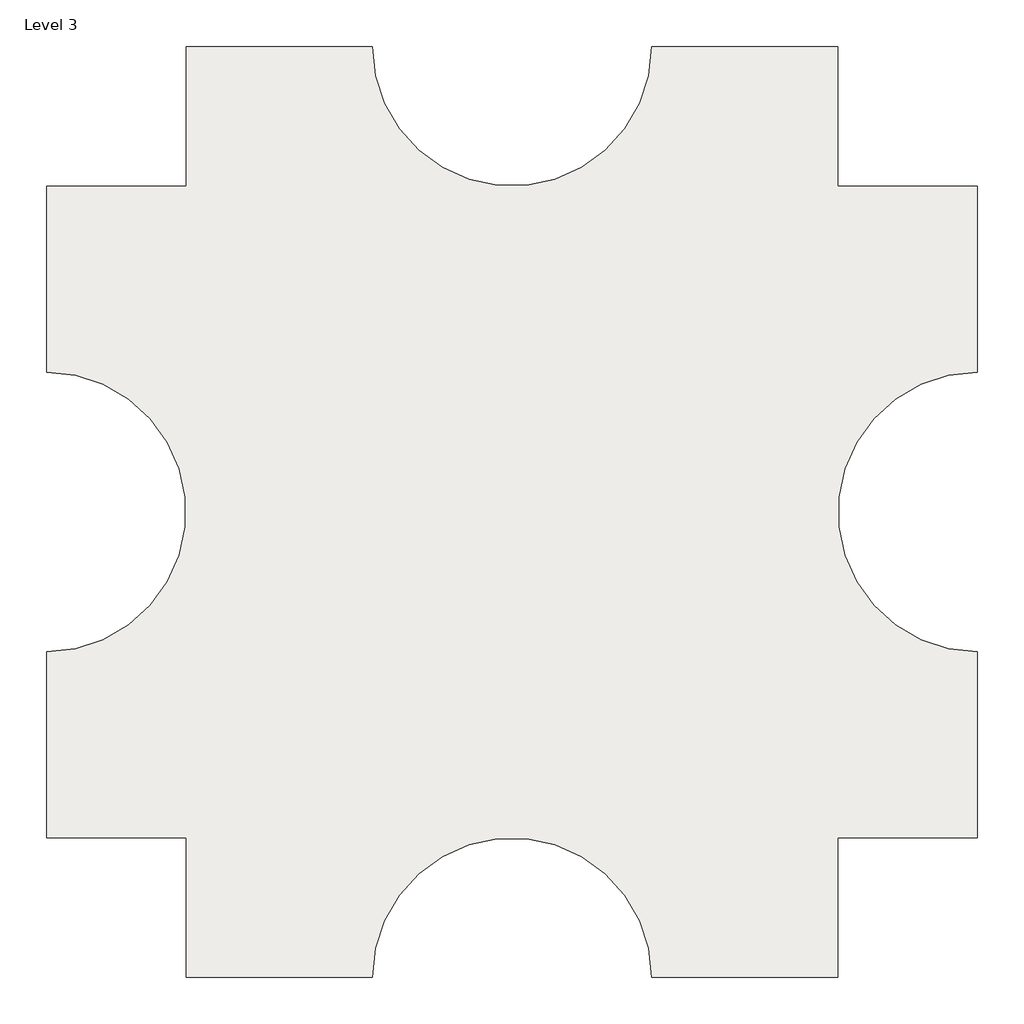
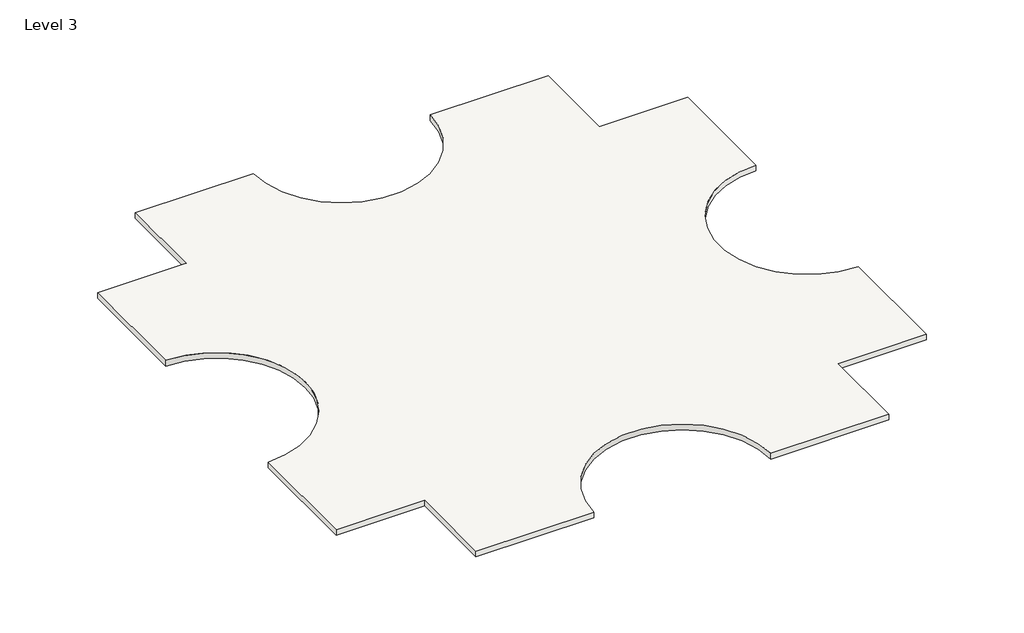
# One storey: 2 slabs.
"""IFC4 building model written with IfcOpenShell, lengths in millimetres."""

import ifcopenshell
import ifcopenshell.guid

model = None  # the IFC model being written
_history = None  # IfcOwnerHistory: only IFC2X3 demands one
_inside = {}  # id of a spatial element -> (the spatial element, [elements in it])
_under = {}  # id of a project, library or spatial element -> (it, [spatial elements below it])
_declared = {}  # id of a project -> (the project, [libraries it declares])
_typed = {}  # id of a type object -> (the type object, [elements of that type])
_made_of = {}  # id of a material, layer set ... -> (it, [elements and type objects made of it])


def new_model(schema):
    """Start an empty IFC model of exactly this schema.

    Asked for "IFC4X3", IfcOpenShell would pick the latest addendum, in which some entities
    have other attributes; the version numbers below select the first issue.
    IFC2X3 requires an IfcOwnerHistory on every rooted entity: one is made here for all.
    """
    global model, _history
    if schema == "IFC4X3":
        model = ifcopenshell.file(schema_version=(4, 3, 0, 0))
    else:
        model = ifcopenshell.file(schema=schema)
    _inside.clear()
    _under.clear()
    _declared.clear()
    _typed.clear()
    _made_of.clear()
    _history = None
    if model.schema == "IFC2X3":
        org = make("IfcOrganization", Name="unknown")
        user = make(
            "IfcPersonAndOrganization",
            ThePerson=make("IfcPerson", FamilyName="unknown"),
            TheOrganization=org,
        )
        app = make(
            "IfcApplication",
            ApplicationDeveloper=org,
            Version="unknown",
            ApplicationFullName="unknown",
            ApplicationIdentifier="unknown",
        )
        _history = make(
            "IfcOwnerHistory",
            OwningUser=user,
            OwningApplication=app,
            ChangeAction="ADDED",
            CreationDate=0,
        )
    return model


def make(cls, **values):
    """One entity of the class cls with the attributes given. An attribute that is None is left unset."""
    return model.create_entity(
        cls, **{name: value for name, value in values.items() if value is not None}
    )


def rooted(cls, **values):
    """An entity with a GlobalId (a new one), such as an element, a storey or a relation."""
    return make(cls, GlobalId=ifcopenshell.guid.new(), OwnerHistory=_history, **values)


def si_unit(unit_type, name, prefix=None):
    """IfcSIUnit, for example si_unit("LENGTHUNIT", "METRE", prefix="MILLI")."""
    return make("IfcSIUnit", UnitType=unit_type, Prefix=prefix, Name=name)


def assignment(units):
    """IfcUnitAssignment: the units of a project."""
    return None if units is None else make("IfcUnitAssignment", Units=units)


def point(xyz):
    """IfcCartesianPoint."""
    return None if xyz is None else make("IfcCartesianPoint", Coordinates=xyz)


def direction(xyz):
    """IfcDirection."""
    return None if xyz is None else make("IfcDirection", DirectionRatios=xyz)


def frame(location, z_axis=None, x_axis=None):
    """IfcAxis2Placement3D, a coordinate frame: its origin and axes. An axis left out is left unset."""
    return make(
        "IfcAxis2Placement3D",
        Location=point(location),
        Axis=direction(z_axis),
        RefDirection=direction(x_axis),
    )


def frame_2d(location, x_axis=None):
    """IfcAxis2Placement2D, a coordinate frame in the plane: its origin and x axis."""
    return make(
        "IfcAxis2Placement2D", Location=point(location), RefDirection=direction(x_axis)
    )


def origin():
    """The frame at (0, 0, 0) with its axes left unset."""
    return frame((0.0, 0.0, 0.0))


def place(relative_to, where):
    """IfcLocalPlacement: puts the frame where relative to a parent placement (None: the world)."""
    return make(
        "IfcLocalPlacement", PlacementRelTo=relative_to, RelativePlacement=where
    )


def context(
    kind, dimensions, precision=None, world=None, true_north=None, identifier=None
):
    """IfcGeometricRepresentationContext, for example the 3D "Model" context."""
    return make(
        "IfcGeometricRepresentationContext",
        ContextIdentifier=identifier,
        ContextType=kind,
        CoordinateSpaceDimension=dimensions,
        Precision=precision,
        WorldCoordinateSystem=world,
        TrueNorth=true_north,
    )


def project(units=None, contexts=None):
    """IfcProject with its units and contexts."""
    return rooted(
        "IfcProject",
        Name="project",
        RepresentationContexts=contexts,
        UnitsInContext=assignment(units),
    )


def spatial(cls, under=None, at=None, **own):
    """A site, building, storey or space (cls), placed at a placement, below another one or the project."""
    s = rooted(cls, ObjectPlacement=at, **own)
    if under is not None:
        _under.setdefault(under.id(), (under, []))[1].append(s)
    return s


def polyline(points):
    """IfcPolyline through the points."""
    return make("IfcPolyline", Points=[point(p) for p in points])


def circle_curve(where, radius):
    """IfcCircle in the frame where."""
    return make("IfcCircle", Position=where, Radius=radius)


def trimmed(basis, trim1, trim2, sense, master):
    """IfcTrimmedCurve: the piece of a basis curve between two trims."""
    return make(
        "IfcTrimmedCurve",
        BasisCurve=basis,
        Trim1=trim1,
        Trim2=trim2,
        SenseAgreement=sense,
        MasterRepresentation=master,
    )


def segment(curve, same_sense, transition):
    """IfcCompositeCurveSegment."""
    return make(
        "IfcCompositeCurveSegment",
        Transition=transition,
        SameSense=same_sense,
        ParentCurve=curve,
    )


def composite_curve(segments, self_intersect=None):
    """IfcCompositeCurve: segments joined end to end."""
    return make("IfcCompositeCurve", Segments=segments, SelfIntersect=self_intersect)


def outline(outer, holes=None, kind="AREA"):
    """IfcArbitraryClosedProfileDef: a profile drawn as a closed curve; with holes, ...WithVoids."""
    if holes is None:
        return make("IfcArbitraryClosedProfileDef", ProfileType=kind, OuterCurve=outer)
    return make(
        "IfcArbitraryProfileDefWithVoids",
        ProfileType=kind,
        OuterCurve=outer,
        InnerCurves=holes,
    )


def extrude(swept, where, along, depth):
    """IfcExtrudedAreaSolid: the profile swept, set in the frame where, extruded along a direction by depth."""
    return make(
        "IfcExtrudedAreaSolid",
        SweptArea=swept,
        Position=where,
        ExtrudedDirection=direction(along),
        Depth=depth,
    )


def shape(context_of_items, identifier, shape_type, items):
    """IfcShapeRepresentation: the items that make up one representation, for example the "Body"."""
    return make(
        "IfcShapeRepresentation",
        ContextOfItems=context_of_items,
        RepresentationIdentifier=identifier,
        RepresentationType=shape_type,
        Items=items,
    )


def made_of(thing, what):
    """Note that an element or type object is made of a material, layer set ...; save() writes the relation."""
    if what is not None:
        _made_of.setdefault(what.id(), (what, []))[1].append(thing)
    return thing


def element(
    cls,
    number,
    at=None,
    inside=None,
    cuts=None,
    type_object=None,
    material=None,
    context=None,
    identifier="Body",
    shape_type=None,
    held_by="IfcProductDefinitionShape",
    body=None,
    shapes=None,
    **own,
):
    """One element of the class cls, such as IfcWall. Its Tag is "e" and its number.

    at: its placement. inside: the storey or other place that contains it. cuts: it is an
    opening in that element (IfcRelVoidsElement). A single representation is given by context,
    identifier, shape_type and body (its items); several are given by shapes. held_by: the class
    of the entity that holds the representations. save() writes the other relations.
    """
    e = rooted(cls, Tag="e%d" % number, ObjectPlacement=at, **own)
    if body is not None:
        shapes = [shape(context, identifier, shape_type, body)]
    if shapes is not None:
        e.Representation = make(held_by, Representations=shapes)
    if inside is not None:
        _inside.setdefault(inside.id(), (inside, []))[1].append(e)
    if cuts is not None:
        rooted(
            "IfcRelVoidsElement", RelatingBuildingElement=cuts, RelatedOpeningElement=e
        )
    if type_object is not None:
        _typed.setdefault(type_object.id(), (type_object, []))[1].append(e)
    return made_of(e, material)


def aggregate(whole, parts):
    """IfcRelAggregates: a whole, such as a stair, and the parts it consists of."""
    return rooted("IfcRelAggregates", RelatingObject=whole, RelatedObjects=parts)


def save(model, path):
    """Write the relations noted so far, then the file.

    IfcRelAggregates (storeys below a building ...), IfcRelContainedInSpatialStructure (elements
    in a storey), IfcRelDefinesByType, IfcRelAssociatesMaterial and IfcRelDeclares: one each for
    every whole, place, type object, material and project.
    """
    for whole, parts in _under.values():
        aggregate(whole, parts)
    for where, things in _inside.values():
        rooted(
            "IfcRelContainedInSpatialStructure",
            RelatedElements=things,
            RelatingStructure=where,
        )
    for kind, things in _typed.values():
        rooted("IfcRelDefinesByType", RelatedObjects=things, RelatingType=kind)
    for what, things in _made_of.values():
        rooted("IfcRelAssociatesMaterial", RelatedObjects=things, RelatingMaterial=what)
    for by, libraries in _declared.values():
        rooted("IfcRelDeclares", RelatingContext=by, RelatedDefinitions=libraries)
    model.write(path)


model = new_model("IFC4")

# Units and contexts
model_context = context("Model", 3, world=origin())
ifc_project = project(units=[si_unit("LENGTHUNIT", "METRE", prefix="MILLI")], contexts=[model_context])

# Site, building, storey
site = spatial("IfcSite", under=ifc_project)
building = spatial("IfcBuilding", under=site)
storey = spatial("IfcBuildingStorey", under=building, Name="Level 3", Elevation=6096.0)

# Slabs
placement = place(None, origin())
element("IfcSlab", 1, ObjectType="Generic - 12\"", at=placement, inside=storey, context=model_context, shape_type="SweptSolid", body=[
    extrude(outline(composite_curve([segment(polyline([(-7150.3629456, 4479.6634547), (-7150.3629456, 9051.6634547), (-1054.3629456, 9051.6634547)]), True, "CONTINUOUS"), segment(trimmed(circle_curve(frame_2d((3517.6370544, 9051.6634547)), 4572.0), [point((-1054.3629456, 9051.6634547))], [point((8089.6370544, 9051.6634547))], True, "CARTESIAN"), True, "CONTINUOUS"), segment(polyline([(8089.6370544, 9051.6634547), (14185.6370544, 9051.6634547), (14185.6370544, 4479.6634547), (18757.6370544, 4479.6634547), (18757.6370544, -1616.3365453)]), True, "CONTINUOUS"), segment(trimmed(circle_curve(frame_2d((18757.6370544, -6188.3365453)), 4572.0), [point((18757.6370544, -1616.3365453))], [point((18757.6370544, -10760.3365453))], True, "CARTESIAN"), True, "CONTINUOUS"), segment(polyline([(18757.6370544, -10760.3365453), (18757.6370544, -16856.3365453), (14185.6370544, -16856.3365453), (14185.6370544, -21428.3365453), (8089.6370544, -21428.3365453)]), True, "CONTINUOUS"), segment(trimmed(circle_curve(frame_2d((3517.6370544, -21428.3365453)), 4572.0), [point((8089.6370544, -21428.3365453))], [point((-1054.3629456, -21428.3365453))], True, "CARTESIAN"), True, "CONTINUOUS"), segment(polyline([(-1054.3629456, -21428.3365453), (-7150.3629456, -21428.3365453), (-7150.3629456, -16856.3365453), (-11722.3629456, -16856.3365453), (-11722.3629456, -10760.3365453)]), True, "CONTINUOUS"), segment(trimmed(circle_curve(frame_2d((-11722.3629456, -6188.3365453)), 4572.0), [point((-11722.3629456, -10760.3365453))], [point((-11722.3629456, -1616.3365453))], True, "CARTESIAN"), True, "CONTINUOUS"), segment(polyline([(-11722.3629456, -1616.3365453), (-11722.3629456, 4479.6634547), (-7150.3629456, 4479.6634547)]), True, "CONTINUOUS")], self_intersect=False)), frame((0.0, 0.0, 5791.2), z_axis=(0.0, 0.0, 1.0), x_axis=(1.0, 0.0, 0.0)), (0.0, 0.0, 1.0), 304.8),
])
element("IfcSlab", 2, ObjectType="Generic - 12\"", at=placement, inside=storey, context=model_context, shape_type="SweptSolid", body=[
    extrude(outline(composite_curve([segment(polyline([(-7150.3629456, 4479.6634547), (-7150.3629456, 9051.6634547), (-1054.3629456, 9051.6634547)]), True, "CONTINUOUS"), segment(trimmed(circle_curve(frame_2d((3517.6370544, 9051.6634547)), 4572.0), [point((-1054.3629456, 9051.6634547))], [point((8089.6370544, 9051.6634547))], True, "CARTESIAN"), True, "CONTINUOUS"), segment(polyline([(8089.6370544, 9051.6634547), (14185.6370544, 9051.6634547), (14185.6370544, 4479.6634547), (18757.6370544, 4479.6634547), (18757.6370544, -1616.3365453)]), True, "CONTINUOUS"), segment(trimmed(circle_curve(frame_2d((18757.6370544, -6188.3365453)), 4572.0), [point((18757.6370544, -1616.3365453))], [point((18757.6370544, -10760.3365453))], True, "CARTESIAN"), True, "CONTINUOUS"), segment(polyline([(18757.6370544, -10760.3365453), (18757.6370544, -16856.3365453), (14185.6370544, -16856.3365453), (14185.6370544, -21428.3365453), (8089.6370544, -21428.3365453)]), True, "CONTINUOUS"), segment(trimmed(circle_curve(frame_2d((3517.6370544, -21428.3365453)), 4572.0), [point((8089.6370544, -21428.3365453))], [point((-1054.3629456, -21428.3365453))], True, "CARTESIAN"), True, "CONTINUOUS"), segment(polyline([(-1054.3629456, -21428.3365453), (-7150.3629456, -21428.3365453), (-7150.3629456, -16856.3365453), (-11722.3629456, -16856.3365453), (-11722.3629456, -10760.3365453)]), True, "CONTINUOUS"), segment(trimmed(circle_curve(frame_2d((-11722.3629456, -6188.3365453)), 4572.0), [point((-11722.3629456, -10760.3365453))], [point((-11722.3629456, -1616.3365453))], True, "CARTESIAN"), True, "CONTINUOUS"), segment(polyline([(-11722.3629456, -1616.3365453), (-11722.3629456, 4479.6634547), (-7150.3629456, 4479.6634547)]), True, "CONTINUOUS")], self_intersect=False)), frame((0.0, 0.0, 5791.2), z_axis=(0.0, 0.0, 1.0), x_axis=(1.0, 0.0, 0.0)), (0.0, 0.0, 1.0), 304.8),
])

save(model, "model.ifc")
